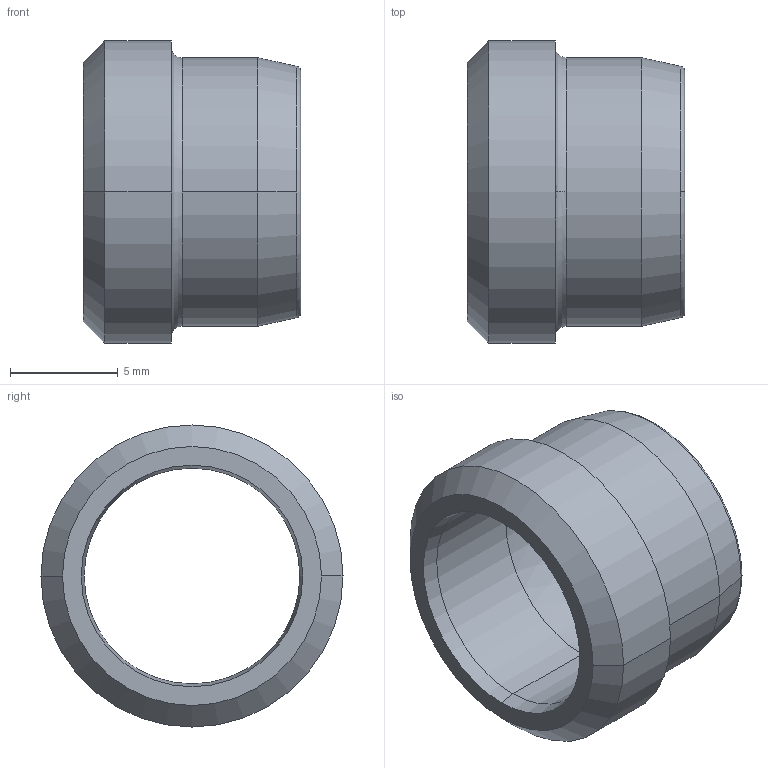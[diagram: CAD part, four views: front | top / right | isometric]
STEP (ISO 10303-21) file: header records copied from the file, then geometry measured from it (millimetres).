
FILE_DESCRIPTION((''),'2;1');
FILE_NAME('100106.stp','2006-03-06T15:07:38',('Dario Falcomer'),('CAST S.p.A.'),'AutoCAD STEP 2000i','AutoCAD 2000i',', , ');
FILE_SCHEMA(('CONFIG_CONTROL_DESIGN'));
Length unit declared in the file: millimetre
Products named in the file (2): 100106.0; 1001ESTERNO#0
Assembly tree (1 placements, depth 2):
  100106.0
    1001ESTERNO#0
Bounding box: 10.07 x 14 x 14 mm (x, y, z)
Volume: 498 mm3; surface area: 839.8 mm2
Topology: 1 solids, 1 shells, 28 faces, 67 edges, 43 vertices
Faces by surface type: bspline 8, cone 8, cylinder 6, plane 4, torus 2
Entity records: 1241 total; most frequent: CARTESIAN_POINT 456, DIRECTION 164, ORIENTED_EDGE 134, AXIS2_PLACEMENT_3D 75, EDGE_CURVE 67, CIRCLE 53, VERTEX_POINT 43, EDGE_LOOP 32
